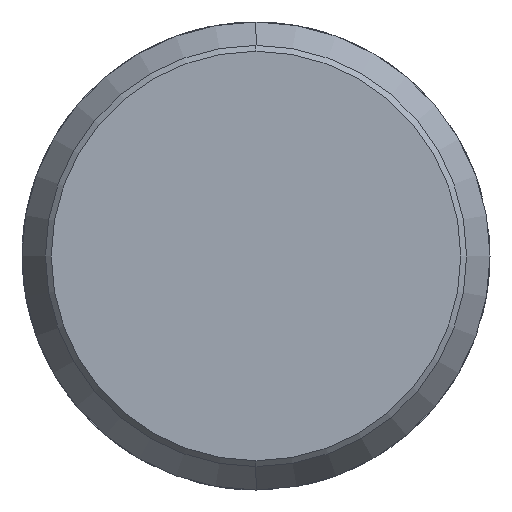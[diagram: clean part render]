
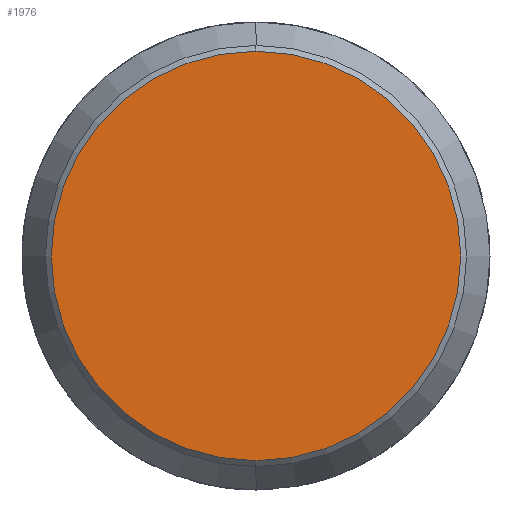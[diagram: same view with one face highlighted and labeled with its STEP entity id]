
A CAD part, left-side view. The second image highlights one B-rep face of the part: STEP entity #1976.
In plain terms, the highlighted planar face has unit normal (-1, 0, 0).
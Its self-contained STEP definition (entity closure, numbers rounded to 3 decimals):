
#8 = DIRECTION ( 'NONE',  ( 0., 0., -1. ) ) ;
#145 = DIRECTION ( 'NONE',  ( 0., 0., -1. ) ) ;
#220 = ORIENTED_EDGE ( 'NONE', *, *, #3830, .T. ) ;
#981 = CIRCLE ( 'NONE', #3467, 17.5 ) ;
#1216 = CARTESIAN_POINT ( 'NONE',  ( -2.02, 0., 17.5 ) ) ;
#1515 = VERTEX_POINT ( 'NONE', #1590 ) ;
#1537 = CIRCLE ( 'NONE', #6532, 17.5 ) ;
#1549 = CARTESIAN_POINT ( 'NONE',  ( -2.02, 0., 0. ) ) ;
#1590 = CARTESIAN_POINT ( 'NONE',  ( -2.02, 0., -17.5 ) ) ;
#1608 = EDGE_LOOP ( 'NONE', ( #4997, #220 ) ) ;
#1976 = ADVANCED_FACE ( 'NONE', ( #6245 ), #4455, .F. ) ;
#2217 = DIRECTION ( 'NONE',  ( -1., 0., 0. ) ) ;
#2416 = CARTESIAN_POINT ( 'NONE',  ( -2.02, 15.75, 0. ) ) ;
#2850 = DIRECTION ( 'NONE',  ( 0., 0., -1. ) ) ;
#2933 = DIRECTION ( 'NONE',  ( 1., 0., 0. ) ) ;
#3050 = VERTEX_POINT ( 'NONE', #1216 ) ;
#3467 = AXIS2_PLACEMENT_3D ( 'NONE', #1549, #4015, #8 ) ;
#3830 = EDGE_CURVE ( 'NONE', #3050, #1515, #1537, .T. ) ;
#4015 = DIRECTION ( 'NONE',  ( -1., 0., 0. ) ) ;
#4133 = EDGE_CURVE ( 'NONE', #1515, #3050, #981, .T. ) ;
#4455 = PLANE ( 'NONE',  #6312 ) ;
#4778 = CARTESIAN_POINT ( 'NONE',  ( -2.02, 0., 0. ) ) ;
#4997 = ORIENTED_EDGE ( 'NONE', *, *, #4133, .T. ) ;
#6245 = FACE_OUTER_BOUND ( 'NONE', #1608, .T. ) ;
#6312 = AXIS2_PLACEMENT_3D ( 'NONE', #2416, #2933, #2850 ) ;
#6532 = AXIS2_PLACEMENT_3D ( 'NONE', #4778, #2217, #145 ) ;
